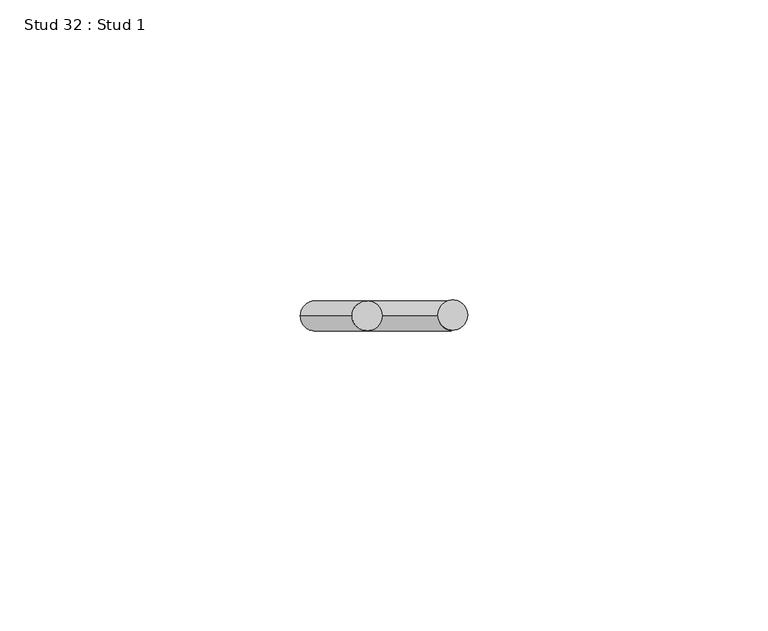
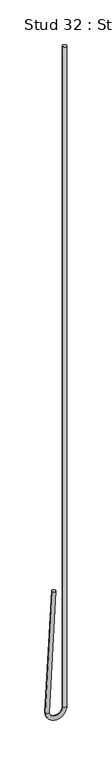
"""IFC4 building model written with IfcOpenShell, lengths in millimetres: proxy geometry, Stud 32 : Stud 1."""

from ifc_helpers import new_model, si_unit, point, frame, origin, place, context, project, spatial, circle_curve, ellipse_curve, trimmed, source, transform, mapped, element, save
from ifc_brep_helpers import plane_surface, cylinder_surface, revolved_surface, advanced_brep


def stud_32_stud_1_0430b82f(model_context):
    return source(origin(), model_context, "Body", "AdvancedBrep", [
        advanced_brep(
        [(-14671.4532788, 2138.5191481, 3640.800192), (-14666.4601311, 2138.5191481, 3640.5385122), (-14680.0939451, 2138.5191481, 3475.9264558), (-14675.1007975, 2138.5191481, 3475.664776), (-14657.1920812, 2138.5191481, 3475.7956159), (-14652.1920812, 2138.5191481, 3475.7956159), (-14652.1920812, 2138.5191481, 4390.1956159), (-14657.1920812, 2138.5191481, 4390.1956159)],
        [
            (0, 1, circle_curve(frame((-14668.9567049, 2138.5191481, 3640.6693521), z_axis=(0.05233595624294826, 0.0, 0.9986295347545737), x_axis=(0.9986295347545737, 0.0, -0.05233595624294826)), 2.5)),
            (1, 0, circle_curve(frame((-14668.9567049, 2138.5191481, 3640.6693521), z_axis=(0.05233595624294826, 0.0, 0.9986295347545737), x_axis=(0.9986295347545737, 0.0, -0.05233595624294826)), 2.5)),
            (0, 2),
            (2, 3, circle_curve(frame((-14677.5973713, 2138.5191481, 3475.7956159), z_axis=(0.05233595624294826, 0.0, 0.9986295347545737), x_axis=(0.9986295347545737, 0.0, -0.05233595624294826)), 2.5)),
            (3, 1),
            (3, 2, circle_curve(frame((-14677.5973713, 2138.5191481, 3475.7956159), z_axis=(0.05233595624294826, 0.0, 0.9986295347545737), x_axis=(0.9986295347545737, 0.0, -0.05233595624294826)), 2.5)),
            (4, 3, circle_curve(frame((-14666.1447263, 2138.5191481, 3475.7956159), z_axis=(0.0, 1.0, 0.0), x_axis=(-1.0, 0.0, 0.0)), 8.952645)),
            (2, 5, circle_curve(frame((-14666.1447263, 2138.5191481, 3475.7956159), z_axis=(0.0, -1.0, 0.0), x_axis=(-1.0, 0.0, 0.0)), 13.952645)),
            (5, 4, circle_curve(frame((-14654.6920812, 2138.5191481, 3475.7956159), z_axis=(0.0, 0.0, -1.0), x_axis=(-1.0, 0.0, 0.0)), 2.5)),
            (4, 5, circle_curve(frame((-14654.6920812, 2138.5191481, 3475.7956159), z_axis=(0.0, 0.0, -1.0), x_axis=(-1.0, 0.0, 0.0)), 2.5)),
            (6, 7, circle_curve(frame((-14654.6920812, 2138.5191481, 4390.1956159), z_axis=(0.0, 0.0, 1.0), x_axis=(-1.0, 0.0, 0.0)), 2.5)),
            (7, 6, circle_curve(frame((-14654.6920812, 2138.5191481, 4390.1956159), z_axis=(0.0, 0.0, 1.0), x_axis=(-1.0, 0.0, 0.0)), 2.5)),
            (5, 6),
            (7, 4),
        ],
        [
            plane_surface(frame((-14668.9567049, 2732.2441481, 3640.6693521), z_axis=(0.05233595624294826, 0.0, 0.9986295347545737), x_axis=(0.0, -1.0, 0.0))),
            cylinder_surface(frame((-14668.9567049, 2138.5191481, 3640.6693521), z_axis=(0.05233595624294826, 0.0, 0.9986295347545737), x_axis=(0.9986295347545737, 0.0, -0.05233595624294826)), 2.5),
            revolved_surface(trimmed(ellipse_curve(frame((-14677.5973713, 2138.5191481, 3475.7956159), z_axis=(0.0, 0.0, 1.0), x_axis=(1.0, 0.0, 0.0)), 2.5, 2.5), [point((-14680.0973713, 2138.5191481, 3475.7956159))], [point((-14675.0973713, 2138.5191481, 3475.7956159))], True, "CARTESIAN"), (-14666.1447263, 2732.2441481, 3475.7956159), (0.0, -1.0, 0.0)),
            revolved_surface(trimmed(ellipse_curve(frame((-14677.5973713, 2138.5191481, 3475.7956159), z_axis=(0.0, 0.0, 1.0), x_axis=(1.0, 0.0, 0.0)), 2.5, 2.5), [point((-14675.0973713, 2138.5191481, 3475.7956159))], [point((-14680.0973713, 2138.5191481, 3475.7956159))], True, "CARTESIAN"), (-14666.1447263, 2732.2441481, 3475.7956159), (0.0, -1.0, 0.0)),
            plane_surface(frame((-14654.6920812, 2732.2441481, 4390.1956159), z_axis=(0.0, 0.0, 1.0), x_axis=(0.0, -1.0, 0.0))),
            cylinder_surface(frame((-14654.6920812, 2138.5191481, 3475.7956159), z_axis=(0.0, 0.0, -1.0), x_axis=(-1.0, 0.0, 0.0)), 2.5),
        ],
        [
            (0, [[1, 2]]),
            (1, [[-1, 3, 4, 5]]),
            (1, [[-2, -5, 6, -3]]),
            (2, [[7, -4, 8, 9]]),
            (3, [[-8, -6, -7, 10]]),
            (4, [[11, 12]]),
            (5, [[-9, 13, -12, 14]]),
            (5, [[-10, -14, -11, -13]]),
        ],
    ),
    ])


if __name__ == "__main__":
    model = new_model("IFC4")
    model_context = context("Model", 3, world=origin())
    ifc_project = project(units=[si_unit("LENGTHUNIT", "METRE", prefix="MILLI")], contexts=[model_context])
    site = spatial("IfcSite", under=ifc_project)
    building = spatial("IfcBuilding", under=site)
    placement = place(None, origin())
    stud_32_stud_1_shape = stud_32_stud_1_0430b82f(model_context)
    element("IfcBuildingElementProxy", 1, Name="Stud 32 : Stud 1", ObjectType="Stud 32 : Stud 1", at=placement, inside=building, context=model_context, shape_type="MappedRepresentation", body=[
        mapped(stud_32_stud_1_shape, transform((0.0, 0.0, 0.0), x_axis=(1.0, 0.0, 0.0), y_axis=(0.0, 1.0, 0.0), z_axis=(0.0, 0.0, 1.0))),
    ])
    save(model, "model.ifc")
